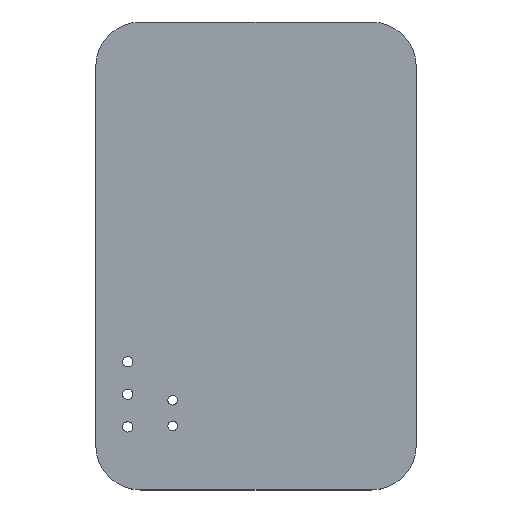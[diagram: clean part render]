
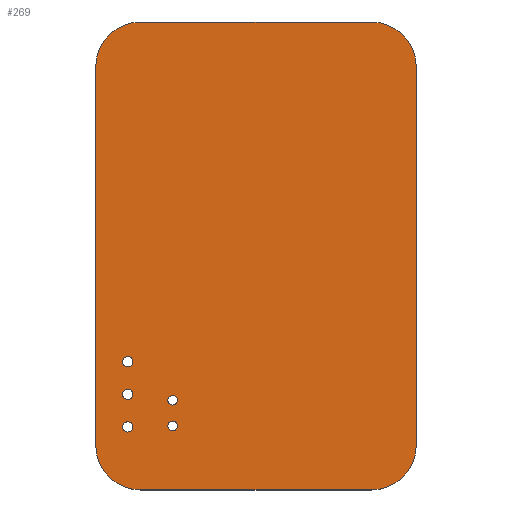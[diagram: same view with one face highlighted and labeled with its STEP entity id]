
A CAD part, top view. The second image highlights one B-rep face of the part: STEP entity #269.
In plain terms, the highlighted planar face has unit normal (0, 0, 1).
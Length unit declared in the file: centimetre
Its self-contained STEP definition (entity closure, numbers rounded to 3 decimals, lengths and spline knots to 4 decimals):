
#15=PLANE('',#307);
#18=CIRCLE('',#294,0.35);
#28=CIRCLE('',#308,0.35);
#29=CIRCLE('',#309,0.35);
#30=CIRCLE('',#310,0.35);
#31=CIRCLE('',#311,0.04);
#32=CIRCLE('',#312,0.0375);
#33=CIRCLE('',#313,0.0375);
#34=CIRCLE('',#314,0.04);
#35=CIRCLE('',#315,0.04);
#61=ORIENTED_EDGE('',*,*,#105,.F.);
#62=ORIENTED_EDGE('',*,*,#109,.F.);
#63=ORIENTED_EDGE('',*,*,#124,.F.);
#64=ORIENTED_EDGE('',*,*,#125,.F.);
#65=ORIENTED_EDGE('',*,*,#126,.F.);
#66=ORIENTED_EDGE('',*,*,#127,.F.);
#67=ORIENTED_EDGE('',*,*,#128,.F.);
#68=ORIENTED_EDGE('',*,*,#111,.F.);
#69=ORIENTED_EDGE('',*,*,#129,.T.);
#70=ORIENTED_EDGE('',*,*,#130,.T.);
#71=ORIENTED_EDGE('',*,*,#131,.T.);
#72=ORIENTED_EDGE('',*,*,#132,.T.);
#73=ORIENTED_EDGE('',*,*,#133,.T.);
#105=EDGE_CURVE('',#139,#140,#18,.T.);
#109=EDGE_CURVE('',#143,#139,#167,.T.);
#111=EDGE_CURVE('',#140,#144,#169,.T.);
#124=EDGE_CURVE('',#155,#143,#28,.T.);
#125=EDGE_CURVE('',#156,#155,#174,.T.);
#126=EDGE_CURVE('',#157,#156,#29,.T.);
#127=EDGE_CURVE('',#158,#157,#175,.T.);
#128=EDGE_CURVE('',#144,#158,#30,.T.);
#129=EDGE_CURVE('',#159,#159,#31,.T.);
#130=EDGE_CURVE('',#160,#160,#32,.T.);
#131=EDGE_CURVE('',#161,#161,#33,.T.);
#132=EDGE_CURVE('',#162,#162,#34,.T.);
#133=EDGE_CURVE('',#163,#163,#35,.T.);
#139=VERTEX_POINT('',#414);
#140=VERTEX_POINT('',#416);
#143=VERTEX_POINT('',#423);
#144=VERTEX_POINT('',#428);
#155=VERTEX_POINT('',#454);
#156=VERTEX_POINT('',#456);
#157=VERTEX_POINT('',#458);
#158=VERTEX_POINT('',#460);
#159=VERTEX_POINT('',#463);
#160=VERTEX_POINT('',#465);
#161=VERTEX_POINT('',#467);
#162=VERTEX_POINT('',#469);
#163=VERTEX_POINT('',#471);
#167=LINE('',#424,#183);
#169=LINE('',#427,#185);
#174=LINE('',#455,#190);
#175=LINE('',#459,#191);
#183=VECTOR('',#339,100.);
#185=VECTOR('',#343,100.);
#190=VECTOR('',#370,100.);
#191=VECTOR('',#373,100.);
#205=EDGE_LOOP('',(#61,#62,#63,#64,#65,#66,#67,#68));
#206=EDGE_LOOP('',(#69));
#207=EDGE_LOOP('',(#70));
#208=EDGE_LOOP('',(#71));
#209=EDGE_LOOP('',(#72));
#210=EDGE_LOOP('',(#73));
#235=FACE_BOUND('',#205,.T.);
#236=FACE_BOUND('',#206,.T.);
#237=FACE_BOUND('',#207,.T.);
#238=FACE_BOUND('',#208,.T.);
#239=FACE_BOUND('',#209,.T.);
#240=FACE_BOUND('',#210,.T.);
#269=ADVANCED_FACE('',(#235,#236,#237,#238,#239,#240),#15,.T.);
#294=AXIS2_PLACEMENT_3D('',#415,#331,#332);
#307=AXIS2_PLACEMENT_3D('',#452,#366,#367);
#308=AXIS2_PLACEMENT_3D('',#453,#368,#369);
#309=AXIS2_PLACEMENT_3D('',#457,#371,#372);
#310=AXIS2_PLACEMENT_3D('',#461,#374,#375);
#311=AXIS2_PLACEMENT_3D('',#462,#376,#377);
#312=AXIS2_PLACEMENT_3D('',#464,#378,#379);
#313=AXIS2_PLACEMENT_3D('',#466,#380,#381);
#314=AXIS2_PLACEMENT_3D('',#468,#382,#383);
#315=AXIS2_PLACEMENT_3D('',#470,#384,#385);
#331=DIRECTION('',(0.,0.,-1.));
#332=DIRECTION('',(0.,1.,0.));
#339=DIRECTION('',(1.,0.,0.));
#343=DIRECTION('',(0.,-1.,0.));
#366=DIRECTION('',(0.,0.,1.));
#367=DIRECTION('',(1.,0.,0.));
#368=DIRECTION('',(0.,0.,-1.));
#369=DIRECTION('',(-1.,0.,0.));
#370=DIRECTION('',(0.,1.,0.));
#371=DIRECTION('',(0.,0.,-1.));
#372=DIRECTION('',(0.,-1.,0.));
#373=DIRECTION('',(-1.,0.,0.));
#374=DIRECTION('',(0.,0.,-1.));
#375=DIRECTION('',(1.,0.,0.));
#376=DIRECTION('',(0.,0.,-1.));
#377=DIRECTION('',(0.,-1.,0.));
#378=DIRECTION('',(0.,0.,-1.));
#379=DIRECTION('',(0.,-1.,0.));
#380=DIRECTION('',(0.,0.,-1.));
#381=DIRECTION('',(0.,-1.,0.));
#382=DIRECTION('',(0.,0.,-1.));
#383=DIRECTION('',(0.,-1.,0.));
#384=DIRECTION('',(0.,0.,-1.));
#385=DIRECTION('',(0.,-1.,0.));
#414=CARTESIAN_POINT('',(0.904,2.4734,0.0572));
#415=CARTESIAN_POINT('',(0.904,2.1234,0.0572));
#416=CARTESIAN_POINT('',(1.254,2.1234,0.0572));
#423=CARTESIAN_POINT('',(-0.896,2.4734,0.0572));
#424=CARTESIAN_POINT('',(-0.896,2.4734,0.0572));
#427=CARTESIAN_POINT('',(1.254,2.1234,0.0572));
#428=CARTESIAN_POINT('',(1.254,-0.8266,0.0572));
#452=CARTESIAN_POINT('',(-8.246,9.1234,0.0572));
#453=CARTESIAN_POINT('',(-0.896,2.1234,0.0572));
#454=CARTESIAN_POINT('',(-1.246,2.1234,0.0572));
#455=CARTESIAN_POINT('',(-1.246,-0.8266,0.0572));
#456=CARTESIAN_POINT('',(-1.246,-0.8266,0.0572));
#457=CARTESIAN_POINT('',(-0.896,-0.8266,0.0572));
#458=CARTESIAN_POINT('',(-0.896,-1.1766,0.0572));
#459=CARTESIAN_POINT('',(0.904,-1.1766,0.0572));
#460=CARTESIAN_POINT('',(0.904,-1.1766,0.0572));
#461=CARTESIAN_POINT('',(0.904,-0.8266,0.0572));
#462=CARTESIAN_POINT('',(-0.996,-0.6846,0.0572));
#463=CARTESIAN_POINT('',(-0.996,-0.7246,0.0572));
#464=CARTESIAN_POINT('',(-0.646,-0.6766,0.0572));
#465=CARTESIAN_POINT('',(-0.646,-0.7141,0.0572));
#466=CARTESIAN_POINT('',(-0.646,-0.4766,0.0572));
#467=CARTESIAN_POINT('',(-0.646,-0.5141,0.0572));
#468=CARTESIAN_POINT('',(-0.996,-0.4306,0.0572));
#469=CARTESIAN_POINT('',(-0.996,-0.4706,0.0572));
#470=CARTESIAN_POINT('',(-0.996,-0.1766,0.0572));
#471=CARTESIAN_POINT('',(-0.996,-0.2166,0.0572));
